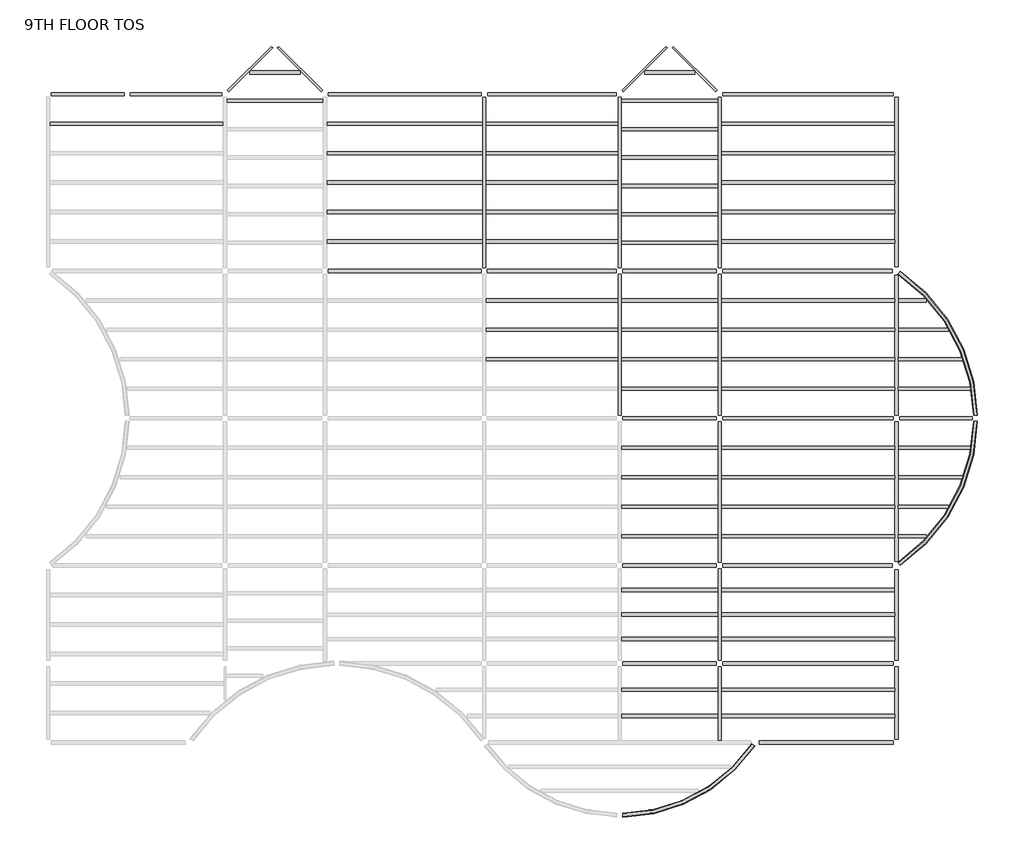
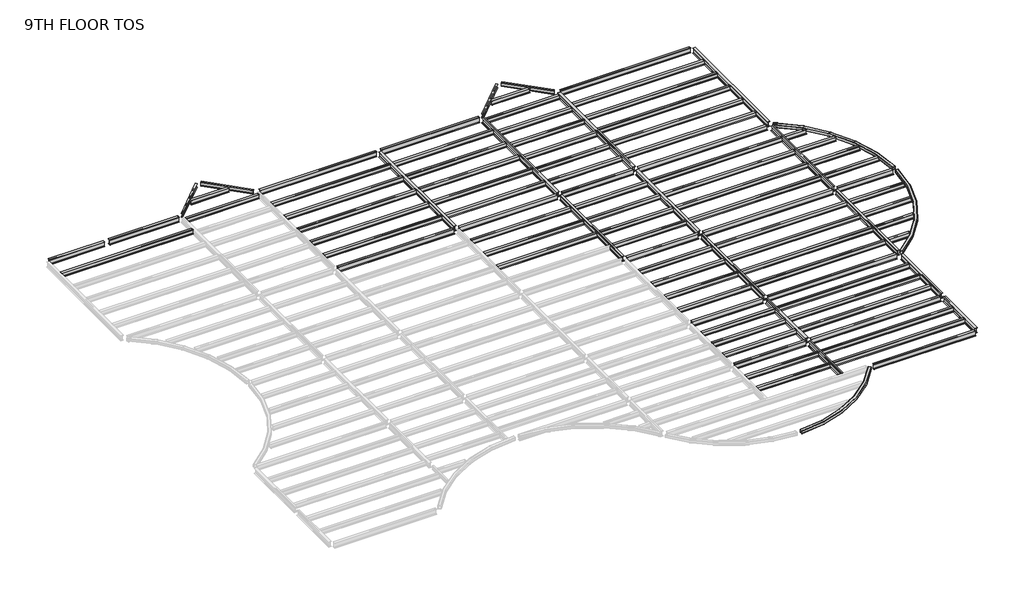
# One storey, part 2 of 2: 99 beams.
"""IFC4 building model written with IfcOpenShell, lengths in millimetres."""

from ifc_helpers import new_model, si_unit, origin, place, context, project, spatial, transform, mapped, element, save
from components import m_hss_square_hss203_2x203_2x9_5_28e91a4e, m_hss_square_hss203_2x203_2x9_5_f31329aa, m_hss_square_hss203_2x203_2x9_5_63507dff, ub_universal_beams_ub254x102x28_7812688d, ub_universal_beams_ub254x102x28_4a38c177, ub_universal_beams_ub305x165x40_c4d0385b, ub_universal_beams_ub305x165x40_19965e16, ub_universal_beams_ub305x165x40_d3abc31d, ub_universal_beams_ub305x165x40_0c73730f, ub_universal_beams_ub305x165x40_2a963f0c, ub_universal_beams_ub305x165x40_9ce7f2ee, ub_universal_beams_ub305x165x40_d184adfd, ub_universal_beams_ub305x165x40_bc7dc938, ub_universal_beams_ub305x165x40_b4233d25, ub_universal_beams_ub356x171x51_c708c058, ub_universal_beams_ub356x171x51_ef72dcdd, ub_universal_beams_ub356x171x51_10b3c54f, ub_universal_beams_ub356x171x51_4c9fd821, ub_universal_beams_ub356x171x51_d1a87c3c, ub_universal_beams_ub356x171x51_fa75724b, ub_universal_beams_ub356x171x51_68db896e, ub_universal_beams_ub356x171x51_c634c4a6, ub_universal_beams_ub356x171x51_995f1560, ub_universal_beams_ub356x171x51_dfc36663, ub_universal_beams_ub356x171x51_11d6b780, ub_universal_beams_ub356x171x51_76b2d20b, ub_universal_beams_ub356x171x51_145ecd4b, ub_universal_beams_ub356x171x51_c7dff8d2, ub_universal_beams_ub356x171x51_8a345439, ub_universal_beams_ub356x171x51_6da510e9, ub_universal_beams_ub356x171x51_e97f8d2e, ub_universal_beams_ub356x171x51_a38b99de, ub_universal_beams_ub356x171x51_d8f4cdde, ub_universal_beams_ub356x171x51_475301e6, ub_universal_beams_ub356x171x51_c03c70fb, ub_universal_beams_ub356x171x51_741bae58

model = new_model("IFC4")

# Units and contexts
model_context = context("Model", 3, world=origin())
ifc_project = project(units=[si_unit("LENGTHUNIT", "METRE", prefix="MILLI")], contexts=[model_context])

# Site, building, storey
site = spatial("IfcSite", under=ifc_project)
building = spatial("IfcBuilding", under=site)
storey = spatial("IfcBuildingStorey", under=building, Name="9TH FLOOR TOS", Elevation=40995.6)

# Beams
placement = place(None, origin())
m_hss_square_hss203_2x203_2x9_5_shape = m_hss_square_hss203_2x203_2x9_5_28e91a4e(model_context)
element("IfcBeam", 1, ObjectType="M_HSS Square : HSS203.2X203.2X9.5", at=placement, inside=storey, context=model_context, shape_type="MappedRepresentation", body=[
    mapped(m_hss_square_hss203_2x203_2x9_5_shape, transform((44027.575, 24539.575, 40894.1), x_axis=(0.8332810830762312, -0.5528495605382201, 0.0), y_axis=(0.5528495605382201, 0.8332810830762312, 0.0), z_axis=(0.0, 0.0, 1.0))),
])
m_hss_square_hss203_2x203_2x9_5_2_shape = m_hss_square_hss203_2x203_2x9_5_f31329aa(model_context)
element("IfcBeam", 2, ObjectType="M_HSS Square : HSS203.2X203.2X9.5", at=placement, inside=storey, context=model_context, shape_type="MappedRepresentation", body=[
    mapped(m_hss_square_hss203_2x203_2x9_5_2_shape, transform((44027.575, 9299.575, 40894.1), x_axis=(0.8332810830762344, 0.5528495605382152, 0.0), y_axis=(-0.5528495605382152, 0.8332810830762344, 0.0), z_axis=(0.0, 0.0, 1.0))),
])
m_hss_square_hss203_2x203_2x9_5_3_shape = m_hss_square_hss203_2x203_2x9_5_63507dff(model_context)
element("IfcBeam", 3, ObjectType="M_HSS Square : HSS203.2X203.2X9.5", at=placement, inside=storey, context=model_context, shape_type="MappedRepresentation", body=[
    mapped(m_hss_square_hss203_2x203_2x9_5_3_shape, transform((36716.575, 155.575, 40894.1), x_axis=(-0.5530174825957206, -0.8331696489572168, 0.0), y_axis=(0.8331696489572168, -0.5530174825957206, 0.0), z_axis=(0.0, 0.0, 1.0))),
])
ub_universal_beams_ub254x102x28_shape = ub_universal_beams_ub254x102x28_7812688d(model_context)
element("IfcBeam", 4, ObjectType="UB-Universal Beams : UB254x102x28", at=placement, inside=storey, context=model_context, shape_type="MappedRepresentation", body=[
    mapped(ub_universal_beams_ub254x102x28_shape, transform((10592.575, 34976.575, 40865.4), x_axis=(0.7071067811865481, 0.7071067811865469, 0.0), y_axis=(-0.7071067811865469, 0.7071067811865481, 0.0), z_axis=(0.0, 0.0, 1.0))),
])
element("IfcBeam", 5, ObjectType="UB-Universal Beams : UB254x102x28", at=placement, inside=storey, context=model_context, shape_type="MappedRepresentation", body=[
    mapped(ub_universal_beams_ub254x102x28_shape, transform((31004.575, 34976.575, 40865.4), x_axis=(0.7071067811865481, 0.7071067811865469, 0.0), y_axis=(-0.7071067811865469, 0.7071067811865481, 0.0), z_axis=(0.0, 0.0, 1.0))),
])
ub_universal_beams_ub254x102x28_2_shape = ub_universal_beams_ub254x102x28_4a38c177(model_context)
element("IfcBeam", 6, ObjectType="UB-Universal Beams : UB254x102x28", at=placement, inside=storey, context=model_context, shape_type="MappedRepresentation", body=[
    mapped(ub_universal_beams_ub254x102x28_2_shape, transform((13178.575, 34976.575, 40865.4), x_axis=(0.707106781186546, -0.707106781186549, 0.0), y_axis=(0.707106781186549, 0.707106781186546, 0.0), z_axis=(0.0, 0.0, 1.0))),
])
element("IfcBeam", 7, ObjectType="UB-Universal Beams : UB254x102x28", at=placement, inside=storey, context=model_context, shape_type="MappedRepresentation", body=[
    mapped(ub_universal_beams_ub254x102x28_2_shape, transform((33590.575, 34976.575, 40865.4), x_axis=(0.7071067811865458, -0.7071067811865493, 0.0), y_axis=(0.7071067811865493, 0.7071067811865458, 0.0), z_axis=(0.0, 0.0, 1.0))),
])
ub_universal_beams_ub305x165x40_shape = ub_universal_beams_ub305x165x40_c4d0385b(model_context)
element("IfcBeam", 8, ObjectType="UB-Universal Beams : UB305x165x40", at=placement, inside=storey, context=model_context, shape_type="MappedRepresentation", body=[
    mapped(ub_universal_beams_ub305x165x40_shape, transform((4727.575, 32159.575, 40843.9), x_axis=(1.0, 0.0, 0.0), y_axis=(0.0, 1.0, 0.0), z_axis=(0.0, 0.0, 1.0))),
])
element("IfcBeam", 9, ObjectType="UB-Universal Beams : UB305x165x40", at=placement, inside=storey, context=model_context, shape_type="MappedRepresentation", body=[
    mapped(ub_universal_beams_ub305x165x40_shape, transform((39455.575, 32159.575, 40843.9), x_axis=(1.0, 0.0, 0.0), y_axis=(0.0, 1.0, 0.0), z_axis=(0.0, 0.0, 1.0))),
])
element("IfcBeam", 10, ObjectType="UB-Universal Beams : UB305x165x40", at=placement, inside=storey, context=model_context, shape_type="MappedRepresentation", body=[
    mapped(ub_universal_beams_ub305x165x40_shape, transform((39455.575, 30635.575, 40843.9), x_axis=(1.0, 0.0, 0.0), y_axis=(0.0, 1.0, 0.0), z_axis=(0.0, 0.0, 1.0))),
])
element("IfcBeam", 11, ObjectType="UB-Universal Beams : UB305x165x40", at=placement, inside=storey, context=model_context, shape_type="MappedRepresentation", body=[
    mapped(ub_universal_beams_ub305x165x40_shape, transform((39455.575, 29111.575, 40843.9), x_axis=(1.0, 0.0, 0.0), y_axis=(0.0, 1.0, 0.0), z_axis=(0.0, 0.0, 1.0))),
])
element("IfcBeam", 12, ObjectType="UB-Universal Beams : UB305x165x40", at=placement, inside=storey, context=model_context, shape_type="MappedRepresentation", body=[
    mapped(ub_universal_beams_ub305x165x40_shape, transform((39455.575, 27587.575, 40843.9), x_axis=(1.0, 0.0, 0.0), y_axis=(0.0, 1.0, 0.0), z_axis=(0.0, 0.0, 1.0))),
])
element("IfcBeam", 13, ObjectType="UB-Universal Beams : UB305x165x40", at=placement, inside=storey, context=model_context, shape_type="MappedRepresentation", body=[
    mapped(ub_universal_beams_ub305x165x40_shape, transform((39455.575, 26063.575, 40843.9), x_axis=(1.0, 0.0, 0.0), y_axis=(0.0, 1.0, 0.0), z_axis=(0.0, 0.0, 1.0))),
])
element("IfcBeam", 14, ObjectType="UB-Universal Beams : UB305x165x40", at=placement, inside=storey, context=model_context, shape_type="MappedRepresentation", body=[
    mapped(ub_universal_beams_ub305x165x40_shape, transform((39455.575, 23015.575, 40843.9), x_axis=(1.0, 0.0, 0.0), y_axis=(0.0, 1.0, 0.0), z_axis=(0.0, 0.0, 1.0))),
])
element("IfcBeam", 15, ObjectType="UB-Universal Beams : UB305x165x40", at=placement, inside=storey, context=model_context, shape_type="MappedRepresentation", body=[
    mapped(ub_universal_beams_ub305x165x40_shape, transform((39455.575, 21491.575, 40843.9), x_axis=(1.0, 0.0, 0.0), y_axis=(0.0, 1.0, 0.0), z_axis=(0.0, 0.0, 1.0))),
])
element("IfcBeam", 16, ObjectType="UB-Universal Beams : UB305x165x40", at=placement, inside=storey, context=model_context, shape_type="MappedRepresentation", body=[
    mapped(ub_universal_beams_ub305x165x40_shape, transform((39455.575, 19967.575, 40843.9), x_axis=(1.0, 0.0, 0.0), y_axis=(0.0, 1.0, 0.0), z_axis=(0.0, 0.0, 1.0))),
])
element("IfcBeam", 17, ObjectType="UB-Universal Beams : UB305x165x40", at=placement, inside=storey, context=model_context, shape_type="MappedRepresentation", body=[
    mapped(ub_universal_beams_ub305x165x40_shape, transform((39455.575, 18443.575, 40843.9), x_axis=(1.0, 0.0, 0.0), y_axis=(0.0, 1.0, 0.0), z_axis=(0.0, 0.0, 1.0))),
])
element("IfcBeam", 18, ObjectType="UB-Universal Beams : UB305x165x40", at=placement, inside=storey, context=model_context, shape_type="MappedRepresentation", body=[
    mapped(ub_universal_beams_ub305x165x40_shape, transform((39455.575, 15395.575, 40843.9), x_axis=(1.0, 0.0, 0.0), y_axis=(0.0, 1.0, 0.0), z_axis=(0.0, 0.0, 1.0))),
])
element("IfcBeam", 19, ObjectType="UB-Universal Beams : UB305x165x40", at=placement, inside=storey, context=model_context, shape_type="MappedRepresentation", body=[
    mapped(ub_universal_beams_ub305x165x40_shape, transform((39455.575, 13871.575, 40843.9), x_axis=(1.0, 0.0, 0.0), y_axis=(0.0, 1.0, 0.0), z_axis=(0.0, 0.0, 1.0))),
])
element("IfcBeam", 20, ObjectType="UB-Universal Beams : UB305x165x40", at=placement, inside=storey, context=model_context, shape_type="MappedRepresentation", body=[
    mapped(ub_universal_beams_ub305x165x40_shape, transform((39455.575, 12347.575, 40843.9), x_axis=(1.0, 0.0, 0.0), y_axis=(0.0, 1.0, 0.0), z_axis=(0.0, 0.0, 1.0))),
])
element("IfcBeam", 21, ObjectType="UB-Universal Beams : UB305x165x40", at=placement, inside=storey, context=model_context, shape_type="MappedRepresentation", body=[
    mapped(ub_universal_beams_ub305x165x40_shape, transform((39455.575, 10823.575, 40843.9), x_axis=(1.0, 0.0, 0.0), y_axis=(0.0, 1.0, 0.0), z_axis=(0.0, 0.0, 1.0))),
])
element("IfcBeam", 22, ObjectType="UB-Universal Beams : UB305x165x40", at=placement, inside=storey, context=model_context, shape_type="MappedRepresentation", body=[
    mapped(ub_universal_beams_ub305x165x40_shape, transform((39455.575, 5508.325, 40843.9), x_axis=(-1.0, 0.0, 0.0), y_axis=(0.0, -1.0, 0.0), z_axis=(0.0, 0.0, 1.0))),
])
element("IfcBeam", 23, ObjectType="UB-Universal Beams : UB305x165x40", at=placement, inside=storey, context=model_context, shape_type="MappedRepresentation", body=[
    mapped(ub_universal_beams_ub305x165x40_shape, transform((39455.575, 6772.075, 40843.9), x_axis=(-1.0, 0.0, 0.0), y_axis=(0.0, -1.0, 0.0), z_axis=(0.0, 0.0, 1.0))),
])
element("IfcBeam", 24, ObjectType="UB-Universal Beams : UB305x165x40", at=placement, inside=storey, context=model_context, shape_type="MappedRepresentation", body=[
    mapped(ub_universal_beams_ub305x165x40_shape, transform((39455.575, 8035.825, 40843.9), x_axis=(-1.0, 0.0, 0.0), y_axis=(0.0, -1.0, 0.0), z_axis=(0.0, 0.0, 1.0))),
])
element("IfcBeam", 25, ObjectType="UB-Universal Beams : UB305x165x40", at=placement, inside=storey, context=model_context, shape_type="MappedRepresentation", body=[
    mapped(ub_universal_beams_ub305x165x40_shape, transform((39455.575, 1518.575, 40843.9), x_axis=(-1.0, 0.0, 0.0), y_axis=(0.0, -1.0, 0.0), z_axis=(0.0, 0.0, 1.0))),
])
element("IfcBeam", 26, ObjectType="UB-Universal Beams : UB305x165x40", at=placement, inside=storey, context=model_context, shape_type="MappedRepresentation", body=[
    mapped(ub_universal_beams_ub305x165x40_shape, transform((39455.575, 2881.575, 40843.9), x_axis=(-1.0, 0.0, 0.0), y_axis=(0.0, -1.0, 0.0), z_axis=(0.0, 0.0, 1.0))),
])
ub_universal_beams_ub305x165x40_2_shape = ub_universal_beams_ub305x165x40_19965e16(model_context)
element("IfcBeam", 27, ObjectType="UB-Universal Beams : UB305x165x40", at=placement, inside=storey, context=model_context, shape_type="MappedRepresentation", body=[
    mapped(ub_universal_beams_ub305x165x40_2_shape, transform((11885.575, 34803.325, 40843.9), x_axis=(1.0, 0.0, 0.0), y_axis=(0.0, 1.0, 0.0), z_axis=(0.0, 0.0, 1.0))),
])
element("IfcBeam", 28, ObjectType="UB-Universal Beams : UB305x165x40", at=placement, inside=storey, context=model_context, shape_type="MappedRepresentation", body=[
    mapped(ub_universal_beams_ub305x165x40_2_shape, transform((32297.575, 34803.325, 40843.9), x_axis=(1.0, 0.0, 0.0), y_axis=(0.0, 1.0, 0.0), z_axis=(0.0, 0.0, 1.0))),
])
ub_universal_beams_ub305x165x40_3_shape = ub_universal_beams_ub305x165x40_d3abc31d(model_context)
element("IfcBeam", 29, ObjectType="UB-Universal Beams : UB305x165x40", at=placement, inside=storey, context=model_context, shape_type="MappedRepresentation", body=[
    mapped(ub_universal_beams_ub305x165x40_3_shape, transform((11885.575, 33337.075, 40843.9), x_axis=(1.0, 0.0, 0.0), y_axis=(0.0, 1.0, 0.0), z_axis=(0.0, 0.0, 1.0))),
])
element("IfcBeam", 30, ObjectType="UB-Universal Beams : UB305x165x40", at=placement, inside=storey, context=model_context, shape_type="MappedRepresentation", body=[
    mapped(ub_universal_beams_ub305x165x40_3_shape, transform((32297.575, 33337.075, 40843.9), x_axis=(1.0, 0.0, 0.0), y_axis=(0.0, 1.0, 0.0), z_axis=(0.0, 0.0, 1.0))),
])
element("IfcBeam", 31, ObjectType="UB-Universal Beams : UB305x165x40", at=placement, inside=storey, context=model_context, shape_type="MappedRepresentation", body=[
    mapped(ub_universal_beams_ub305x165x40_3_shape, transform((32297.575, 31870.825, 40843.9), x_axis=(1.0, 0.0, 0.0), y_axis=(0.0, 1.0, 0.0), z_axis=(0.0, 0.0, 1.0))),
])
element("IfcBeam", 32, ObjectType="UB-Universal Beams : UB305x165x40", at=placement, inside=storey, context=model_context, shape_type="MappedRepresentation", body=[
    mapped(ub_universal_beams_ub305x165x40_3_shape, transform((32297.575, 30404.575, 40843.9), x_axis=(1.0, 0.0, 0.0), y_axis=(0.0, 1.0, 0.0), z_axis=(0.0, 0.0, 1.0))),
])
element("IfcBeam", 33, ObjectType="UB-Universal Beams : UB305x165x40", at=placement, inside=storey, context=model_context, shape_type="MappedRepresentation", body=[
    mapped(ub_universal_beams_ub305x165x40_3_shape, transform((32297.575, 28938.325, 40843.9), x_axis=(1.0, 0.0, 0.0), y_axis=(0.0, 1.0, 0.0), z_axis=(0.0, 0.0, 1.0))),
])
element("IfcBeam", 34, ObjectType="UB-Universal Beams : UB305x165x40", at=placement, inside=storey, context=model_context, shape_type="MappedRepresentation", body=[
    mapped(ub_universal_beams_ub305x165x40_3_shape, transform((32297.575, 27472.075, 40843.9), x_axis=(1.0, 0.0, 0.0), y_axis=(0.0, 1.0, 0.0), z_axis=(0.0, 0.0, 1.0))),
])
element("IfcBeam", 35, ObjectType="UB-Universal Beams : UB305x165x40", at=placement, inside=storey, context=model_context, shape_type="MappedRepresentation", body=[
    mapped(ub_universal_beams_ub305x165x40_3_shape, transform((32297.575, 26005.825, 40843.9), x_axis=(1.0, 0.0, 0.0), y_axis=(0.0, 1.0, 0.0), z_axis=(0.0, 0.0, 1.0))),
])
element("IfcBeam", 36, ObjectType="UB-Universal Beams : UB305x165x40", at=placement, inside=storey, context=model_context, shape_type="MappedRepresentation", body=[
    mapped(ub_universal_beams_ub305x165x40_3_shape, transform((32297.575, 1518.575, 40843.9), x_axis=(-1.0, 0.0, 0.0), y_axis=(0.0, -1.0, 0.0), z_axis=(0.0, 0.0, 1.0))),
])
element("IfcBeam", 37, ObjectType="UB-Universal Beams : UB305x165x40", at=placement, inside=storey, context=model_context, shape_type="MappedRepresentation", body=[
    mapped(ub_universal_beams_ub305x165x40_3_shape, transform((32297.575, 2881.575, 40843.9), x_axis=(-1.0, 0.0, 0.0), y_axis=(0.0, -1.0, 0.0), z_axis=(0.0, 0.0, 1.0))),
])
element("IfcBeam", 38, ObjectType="UB-Universal Beams : UB305x165x40", at=placement, inside=storey, context=model_context, shape_type="MappedRepresentation", body=[
    mapped(ub_universal_beams_ub305x165x40_3_shape, transform((32297.575, 5508.325, 40843.9), x_axis=(-1.0, 0.0, 0.0), y_axis=(0.0, -1.0, 0.0), z_axis=(0.0, 0.0, 1.0))),
])
element("IfcBeam", 39, ObjectType="UB-Universal Beams : UB305x165x40", at=placement, inside=storey, context=model_context, shape_type="MappedRepresentation", body=[
    mapped(ub_universal_beams_ub305x165x40_3_shape, transform((32297.575, 6772.075, 40843.9), x_axis=(-1.0, 0.0, 0.0), y_axis=(0.0, -1.0, 0.0), z_axis=(0.0, 0.0, 1.0))),
])
element("IfcBeam", 40, ObjectType="UB-Universal Beams : UB305x165x40", at=placement, inside=storey, context=model_context, shape_type="MappedRepresentation", body=[
    mapped(ub_universal_beams_ub305x165x40_3_shape, transform((32297.575, 8035.825, 40843.9), x_axis=(-1.0, 0.0, 0.0), y_axis=(0.0, -1.0, 0.0), z_axis=(0.0, 0.0, 1.0))),
])
element("IfcBeam", 41, ObjectType="UB-Universal Beams : UB305x165x40", at=placement, inside=storey, context=model_context, shape_type="MappedRepresentation", body=[
    mapped(ub_universal_beams_ub305x165x40_3_shape, transform((32297.575, 15395.575, 40843.9), x_axis=(1.0, 0.0, 0.0), y_axis=(0.0, 1.0, 0.0), z_axis=(0.0, 0.0, 1.0))),
])
element("IfcBeam", 42, ObjectType="UB-Universal Beams : UB305x165x40", at=placement, inside=storey, context=model_context, shape_type="MappedRepresentation", body=[
    mapped(ub_universal_beams_ub305x165x40_3_shape, transform((32297.575, 13871.575, 40843.9), x_axis=(1.0, 0.0, 0.0), y_axis=(0.0, 1.0, 0.0), z_axis=(0.0, 0.0, 1.0))),
])
element("IfcBeam", 43, ObjectType="UB-Universal Beams : UB305x165x40", at=placement, inside=storey, context=model_context, shape_type="MappedRepresentation", body=[
    mapped(ub_universal_beams_ub305x165x40_3_shape, transform((32297.575, 12347.575, 40843.9), x_axis=(1.0, 0.0, 0.0), y_axis=(0.0, 1.0, 0.0), z_axis=(0.0, 0.0, 1.0))),
])
element("IfcBeam", 44, ObjectType="UB-Universal Beams : UB305x165x40", at=placement, inside=storey, context=model_context, shape_type="MappedRepresentation", body=[
    mapped(ub_universal_beams_ub305x165x40_3_shape, transform((32297.575, 10823.575, 40843.9), x_axis=(1.0, 0.0, 0.0), y_axis=(0.0, 1.0, 0.0), z_axis=(0.0, 0.0, 1.0))),
])
element("IfcBeam", 45, ObjectType="UB-Universal Beams : UB305x165x40", at=placement, inside=storey, context=model_context, shape_type="MappedRepresentation", body=[
    mapped(ub_universal_beams_ub305x165x40_3_shape, transform((32297.575, 23015.575, 40843.9), x_axis=(1.0, 0.0, 0.0), y_axis=(0.0, 1.0, 0.0), z_axis=(0.0, 0.0, 1.0))),
])
element("IfcBeam", 46, ObjectType="UB-Universal Beams : UB305x165x40", at=placement, inside=storey, context=model_context, shape_type="MappedRepresentation", body=[
    mapped(ub_universal_beams_ub305x165x40_3_shape, transform((32297.575, 21491.575, 40843.9), x_axis=(1.0, 0.0, 0.0), y_axis=(0.0, 1.0, 0.0), z_axis=(0.0, 0.0, 1.0))),
])
element("IfcBeam", 47, ObjectType="UB-Universal Beams : UB305x165x40", at=placement, inside=storey, context=model_context, shape_type="MappedRepresentation", body=[
    mapped(ub_universal_beams_ub305x165x40_3_shape, transform((32297.575, 19967.575, 40843.9), x_axis=(1.0, 0.0, 0.0), y_axis=(0.0, 1.0, 0.0), z_axis=(0.0, 0.0, 1.0))),
])
element("IfcBeam", 48, ObjectType="UB-Universal Beams : UB305x165x40", at=placement, inside=storey, context=model_context, shape_type="MappedRepresentation", body=[
    mapped(ub_universal_beams_ub305x165x40_3_shape, transform((32297.575, 18443.575, 40843.9), x_axis=(1.0, 0.0, 0.0), y_axis=(0.0, 1.0, 0.0), z_axis=(0.0, 0.0, 1.0))),
])
ub_universal_beams_ub305x165x40_4_shape = ub_universal_beams_ub305x165x40_0c73730f(model_context)
element("IfcBeam", 49, ObjectType="UB-Universal Beams : UB305x165x40", at=placement, inside=storey, context=model_context, shape_type="MappedRepresentation", body=[
    mapped(ub_universal_beams_ub305x165x40_4_shape, transform((18591.075, 32159.575, 40843.9), x_axis=(1.0, 0.0, 0.0), y_axis=(0.0, 1.0, 0.0), z_axis=(0.0, 0.0, 1.0))),
])
element("IfcBeam", 50, ObjectType="UB-Universal Beams : UB305x165x40", at=placement, inside=storey, context=model_context, shape_type="MappedRepresentation", body=[
    mapped(ub_universal_beams_ub305x165x40_4_shape, transform((18591.075, 30635.575, 40843.9), x_axis=(1.0, 0.0, 0.0), y_axis=(0.0, 1.0, 0.0), z_axis=(0.0, 0.0, 1.0))),
])
element("IfcBeam", 51, ObjectType="UB-Universal Beams : UB305x165x40", at=placement, inside=storey, context=model_context, shape_type="MappedRepresentation", body=[
    mapped(ub_universal_beams_ub305x165x40_4_shape, transform((18591.075, 29111.575, 40843.9), x_axis=(1.0, 0.0, 0.0), y_axis=(0.0, 1.0, 0.0), z_axis=(0.0, 0.0, 1.0))),
])
element("IfcBeam", 52, ObjectType="UB-Universal Beams : UB305x165x40", at=placement, inside=storey, context=model_context, shape_type="MappedRepresentation", body=[
    mapped(ub_universal_beams_ub305x165x40_4_shape, transform((18591.075, 27587.575, 40843.9), x_axis=(1.0, 0.0, 0.0), y_axis=(0.0, 1.0, 0.0), z_axis=(0.0, 0.0, 1.0))),
])
element("IfcBeam", 53, ObjectType="UB-Universal Beams : UB305x165x40", at=placement, inside=storey, context=model_context, shape_type="MappedRepresentation", body=[
    mapped(ub_universal_beams_ub305x165x40_4_shape, transform((18591.075, 26063.575, 40843.9), x_axis=(1.0, 0.0, 0.0), y_axis=(0.0, 1.0, 0.0), z_axis=(0.0, 0.0, 1.0))),
])
ub_universal_beams_ub305x165x40_5_shape = ub_universal_beams_ub305x165x40_2a963f0c(model_context)
element("IfcBeam", 54, ObjectType="UB-Universal Beams : UB305x165x40", at=placement, inside=storey, context=model_context, shape_type="MappedRepresentation", body=[
    mapped(ub_universal_beams_ub305x165x40_5_shape, transform((26211.075, 32159.575, 40843.9), x_axis=(1.0, 0.0, 0.0), y_axis=(0.0, 1.0, 0.0), z_axis=(0.0, 0.0, 1.0))),
])
element("IfcBeam", 55, ObjectType="UB-Universal Beams : UB305x165x40", at=placement, inside=storey, context=model_context, shape_type="MappedRepresentation", body=[
    mapped(ub_universal_beams_ub305x165x40_5_shape, transform((26211.075, 30635.575, 40843.9), x_axis=(1.0, 0.0, 0.0), y_axis=(0.0, 1.0, 0.0), z_axis=(0.0, 0.0, 1.0))),
])
element("IfcBeam", 56, ObjectType="UB-Universal Beams : UB305x165x40", at=placement, inside=storey, context=model_context, shape_type="MappedRepresentation", body=[
    mapped(ub_universal_beams_ub305x165x40_5_shape, transform((26211.075, 29111.575, 40843.9), x_axis=(1.0, 0.0, 0.0), y_axis=(0.0, 1.0, 0.0), z_axis=(0.0, 0.0, 1.0))),
])
element("IfcBeam", 57, ObjectType="UB-Universal Beams : UB305x165x40", at=placement, inside=storey, context=model_context, shape_type="MappedRepresentation", body=[
    mapped(ub_universal_beams_ub305x165x40_5_shape, transform((26211.075, 27587.575, 40843.9), x_axis=(1.0, 0.0, 0.0), y_axis=(0.0, 1.0, 0.0), z_axis=(0.0, 0.0, 1.0))),
])
element("IfcBeam", 58, ObjectType="UB-Universal Beams : UB305x165x40", at=placement, inside=storey, context=model_context, shape_type="MappedRepresentation", body=[
    mapped(ub_universal_beams_ub305x165x40_5_shape, transform((26211.075, 26063.575, 40843.9), x_axis=(1.0, 0.0, 0.0), y_axis=(0.0, 1.0, 0.0), z_axis=(0.0, 0.0, 1.0))),
])
element("IfcBeam", 59, ObjectType="UB-Universal Beams : UB305x165x40", at=placement, inside=storey, context=model_context, shape_type="MappedRepresentation", body=[
    mapped(ub_universal_beams_ub305x165x40_5_shape, transform((26211.075, 23015.575, 40843.9), x_axis=(1.0, 0.0, 0.0), y_axis=(0.0, 1.0, 0.0), z_axis=(0.0, 0.0, 1.0))),
])
element("IfcBeam", 60, ObjectType="UB-Universal Beams : UB305x165x40", at=placement, inside=storey, context=model_context, shape_type="MappedRepresentation", body=[
    mapped(ub_universal_beams_ub305x165x40_5_shape, transform((26211.075, 21491.575, 40843.9), x_axis=(1.0, 0.0, 0.0), y_axis=(0.0, 1.0, 0.0), z_axis=(0.0, 0.0, 1.0))),
])
element("IfcBeam", 61, ObjectType="UB-Universal Beams : UB305x165x40", at=placement, inside=storey, context=model_context, shape_type="MappedRepresentation", body=[
    mapped(ub_universal_beams_ub305x165x40_5_shape, transform((26211.075, 19967.575, 40843.9), x_axis=(1.0, 0.0, 0.0), y_axis=(0.0, 1.0, 0.0), z_axis=(0.0, 0.0, 1.0))),
])
ub_universal_beams_ub305x165x40_6_shape = ub_universal_beams_ub305x165x40_9ce7f2ee(model_context)
element("IfcBeam", 62, ObjectType="UB-Universal Beams : UB305x165x40", at=placement, inside=storey, context=model_context, shape_type="MappedRepresentation", body=[
    mapped(ub_universal_beams_ub305x165x40_6_shape, transform((44907.9405309, 23015.575, 40843.9), x_axis=(1.0, 0.0, 0.0), y_axis=(0.0, 1.0, 0.0), z_axis=(0.0, 0.0, 1.0))),
])
element("IfcBeam", 63, ObjectType="UB-Universal Beams : UB305x165x40", at=placement, inside=storey, context=model_context, shape_type="MappedRepresentation", body=[
    mapped(ub_universal_beams_ub305x165x40_6_shape, transform((44907.9405309, 10823.575, 40843.9), x_axis=(1.0, 0.0, 0.0), y_axis=(0.0, 1.0, 0.0), z_axis=(0.0, 0.0, 1.0))),
])
ub_universal_beams_ub305x165x40_7_shape = ub_universal_beams_ub305x165x40_d184adfd(model_context)
element("IfcBeam", 64, ObjectType="UB-Universal Beams : UB305x165x40", at=placement, inside=storey, context=model_context, shape_type="MappedRepresentation", body=[
    mapped(ub_universal_beams_ub305x165x40_7_shape, transform((45459.5874928, 21491.575, 40843.9), x_axis=(1.0, 0.0, 0.0), y_axis=(0.0, 1.0, 0.0), z_axis=(0.0, 0.0, 1.0))),
])
element("IfcBeam", 65, ObjectType="UB-Universal Beams : UB305x165x40", at=placement, inside=storey, context=model_context, shape_type="MappedRepresentation", body=[
    mapped(ub_universal_beams_ub305x165x40_7_shape, transform((45459.5874928, 12347.575, 40843.9), x_axis=(1.0, 0.0, 0.0), y_axis=(0.0, 1.0, 0.0), z_axis=(0.0, 0.0, 1.0))),
])
ub_universal_beams_ub305x165x40_8_shape = ub_universal_beams_ub305x165x40_bc7dc938(model_context)
element("IfcBeam", 66, ObjectType="UB-Universal Beams : UB305x165x40", at=placement, inside=storey, context=model_context, shape_type="MappedRepresentation", body=[
    mapped(ub_universal_beams_ub305x165x40_8_shape, transform((45810.6153272, 19967.575, 40843.9), x_axis=(1.0, 0.0, 0.0), y_axis=(0.0, 1.0, 0.0), z_axis=(0.0, 0.0, 1.0))),
])
element("IfcBeam", 67, ObjectType="UB-Universal Beams : UB305x165x40", at=placement, inside=storey, context=model_context, shape_type="MappedRepresentation", body=[
    mapped(ub_universal_beams_ub305x165x40_8_shape, transform((45810.6153272, 13871.575, 40843.9), x_axis=(1.0, 0.0, 0.0), y_axis=(0.0, 1.0, 0.0), z_axis=(0.0, 0.0, 1.0))),
])
ub_universal_beams_ub305x165x40_9_shape = ub_universal_beams_ub305x165x40_b4233d25(model_context)
element("IfcBeam", 68, ObjectType="UB-Universal Beams : UB305x165x40", at=placement, inside=storey, context=model_context, shape_type="MappedRepresentation", body=[
    mapped(ub_universal_beams_ub305x165x40_9_shape, transform((46008.1318611, 18443.575, 40843.9), x_axis=(1.0, 0.0, 0.0), y_axis=(0.0, 1.0, 0.0), z_axis=(0.0, 0.0, 1.0))),
])
element("IfcBeam", 69, ObjectType="UB-Universal Beams : UB305x165x40", at=placement, inside=storey, context=model_context, shape_type="MappedRepresentation", body=[
    mapped(ub_universal_beams_ub305x165x40_9_shape, transform((46008.1318611, 15395.575, 40843.9), x_axis=(1.0, 0.0, 0.0), y_axis=(0.0, 1.0, 0.0), z_axis=(0.0, 0.0, 1.0))),
])
ub_universal_beams_ub356x171x51_shape = ub_universal_beams_ub356x171x51_c708c058(model_context)
element("IfcBeam", 70, ObjectType="UB-Universal Beams : UB356x171x51", at=placement, inside=storey, context=model_context, shape_type="MappedRepresentation", body=[
    mapped(ub_universal_beams_ub356x171x51_shape, transform((2200.075, 33683.575, 40818.1), x_axis=(1.0, 0.0, 0.0), y_axis=(0.0, 1.0, 0.0), z_axis=(0.0, 0.0, 1.0))),
])
ub_universal_beams_ub356x171x51_2_shape = ub_universal_beams_ub356x171x51_ef72dcdd(model_context)
element("IfcBeam", 71, ObjectType="UB-Universal Beams : UB356x171x51", at=placement, inside=storey, context=model_context, shape_type="MappedRepresentation", body=[
    mapped(ub_universal_beams_ub356x171x51_2_shape, transform((6772.075, 33683.575, 40818.1), x_axis=(1.0, 0.0, 0.0), y_axis=(0.0, 1.0, 0.0), z_axis=(0.0, 0.0, 1.0))),
])
element("IfcBeam", 72, ObjectType="UB-Universal Beams : UB356x171x51", at=placement, inside=storey, context=model_context, shape_type="MappedRepresentation", body=[
    mapped(ub_universal_beams_ub356x171x51_2_shape, transform((34883.575, 6772.075, 40818.1), x_axis=(0.0, -1.0, 0.0), y_axis=(1.0, 0.0, 0.0), z_axis=(0.0, 0.0, 1.0))),
])
ub_universal_beams_ub356x171x51_3_shape = ub_universal_beams_ub356x171x51_10b3c54f(model_context)
element("IfcBeam", 73, ObjectType="UB-Universal Beams : UB356x171x51", at=placement, inside=storey, context=model_context, shape_type="MappedRepresentation", body=[
    mapped(ub_universal_beams_ub356x171x51_3_shape, transform((18591.075, 33683.575, 40818.1), x_axis=(1.0, 0.0, 0.0), y_axis=(0.0, 1.0, 0.0), z_axis=(0.0, 0.0, 1.0))),
])
ub_universal_beams_ub356x171x51_4_shape = ub_universal_beams_ub356x171x51_4c9fd821(model_context)
element("IfcBeam", 74, ObjectType="UB-Universal Beams : UB356x171x51", at=placement, inside=storey, context=model_context, shape_type="MappedRepresentation", body=[
    mapped(ub_universal_beams_ub356x171x51_4_shape, transform((26211.075, 33683.575, 40818.1), x_axis=(1.0, 0.0, 0.0), y_axis=(0.0, 1.0, 0.0), z_axis=(0.0, 0.0, 1.0))),
])
ub_universal_beams_ub356x171x51_5_shape = ub_universal_beams_ub356x171x51_d1a87c3c(model_context)
element("IfcBeam", 75, ObjectType="UB-Universal Beams : UB356x171x51", at=placement, inside=storey, context=model_context, shape_type="MappedRepresentation", body=[
    mapped(ub_universal_beams_ub356x171x51_5_shape, transform((39455.575, 33683.575, 40818.1), x_axis=(1.0, 0.0, 0.0), y_axis=(0.0, 1.0, 0.0), z_axis=(0.0, 0.0, 1.0))),
])
ub_universal_beams_ub356x171x51_6_shape = ub_universal_beams_ub356x171x51_fa75724b(model_context)
element("IfcBeam", 76, ObjectType="UB-Universal Beams : UB356x171x51", at=placement, inside=storey, context=model_context, shape_type="MappedRepresentation", body=[
    mapped(ub_universal_beams_ub356x171x51_6_shape, transform((44027.575, 29111.575, 40818.1), x_axis=(0.0, -1.0, 0.0), y_axis=(1.0, 0.0, 0.0), z_axis=(0.0, 0.0, 1.0))),
])
ub_universal_beams_ub356x171x51_7_shape = ub_universal_beams_ub356x171x51_68db896e(model_context)
element("IfcBeam", 77, ObjectType="UB-Universal Beams : UB356x171x51", at=placement, inside=storey, context=model_context, shape_type="MappedRepresentation", body=[
    mapped(ub_universal_beams_ub356x171x51_7_shape, transform((44027.575, 6772.075, 40818.1), x_axis=(0.0, -1.0, 0.0), y_axis=(1.0, 0.0, 0.0), z_axis=(0.0, 0.0, 1.0))),
])
ub_universal_beams_ub356x171x51_8_shape = ub_universal_beams_ub356x171x51_c634c4a6(model_context)
element("IfcBeam", 78, ObjectType="UB-Universal Beams : UB356x171x51", at=placement, inside=storey, context=model_context, shape_type="MappedRepresentation", body=[
    mapped(ub_universal_beams_ub356x171x51_8_shape, transform((44027.575, 2200.075, 40818.1), x_axis=(0.0, -1.0, 0.0), y_axis=(1.0, 0.0, 0.0), z_axis=(0.0, 0.0, 1.0))),
])
ub_universal_beams_ub356x171x51_9_shape = ub_universal_beams_ub356x171x51_995f1560(model_context)
element("IfcBeam", 79, ObjectType="UB-Universal Beams : UB356x171x51", at=placement, inside=storey, context=model_context, shape_type="MappedRepresentation", body=[
    mapped(ub_universal_beams_ub356x171x51_9_shape, transform((40372.075, 155.575, 40818.1), x_axis=(-1.0, 0.0, 0.0), y_axis=(0.0, -1.0, 0.0), z_axis=(0.0, 0.0, 1.0))),
])
ub_universal_beams_ub356x171x51_10_shape = ub_universal_beams_ub356x171x51_dfc36663(model_context)
element("IfcBeam", 80, ObjectType="UB-Universal Beams : UB356x171x51", at=placement, inside=storey, context=model_context, shape_type="MappedRepresentation", body=[
    mapped(ub_universal_beams_ub356x171x51_10_shape, transform((46072.075, 16919.575, 40818.1), x_axis=(1.0, 0.0, 0.0), y_axis=(0.0, 1.0, 0.0), z_axis=(0.0, 0.0, 1.0))),
])
ub_universal_beams_ub356x171x51_11_shape = ub_universal_beams_ub356x171x51_11d6b780(model_context)
element("IfcBeam", 81, ObjectType="UB-Universal Beams : UB356x171x51", at=placement, inside=storey, context=model_context, shape_type="MappedRepresentation", body=[
    mapped(ub_universal_beams_ub356x171x51_11_shape, transform((32297.575, 24539.575, 40818.1), x_axis=(1.0, 0.0, 0.0), y_axis=(0.0, 1.0, 0.0), z_axis=(0.0, 0.0, 1.0))),
])
element("IfcBeam", 82, ObjectType="UB-Universal Beams : UB356x171x51", at=placement, inside=storey, context=model_context, shape_type="MappedRepresentation", body=[
    mapped(ub_universal_beams_ub356x171x51_11_shape, transform((32297.575, 9299.575, 40818.1), x_axis=(-1.0, 0.0, 0.0), y_axis=(0.0, -1.0, 0.0), z_axis=(0.0, 0.0, 1.0))),
])
element("IfcBeam", 83, ObjectType="UB-Universal Beams : UB356x171x51", at=placement, inside=storey, context=model_context, shape_type="MappedRepresentation", body=[
    mapped(ub_universal_beams_ub356x171x51_11_shape, transform((32297.575, 16919.575, 40818.1), x_axis=(1.0, 0.0, 0.0), y_axis=(0.0, 1.0, 0.0), z_axis=(0.0, 0.0, 1.0))),
])
element("IfcBeam", 84, ObjectType="UB-Universal Beams : UB356x171x51", at=placement, inside=storey, context=model_context, shape_type="MappedRepresentation", body=[
    mapped(ub_universal_beams_ub356x171x51_11_shape, transform((32297.575, 4244.575, 40818.1), x_axis=(-1.0, 0.0, 0.0), y_axis=(0.0, -1.0, 0.0), z_axis=(0.0, 0.0, 1.0))),
])
ub_universal_beams_ub356x171x51_12_shape = ub_universal_beams_ub356x171x51_76b2d20b(model_context)
element("IfcBeam", 85, ObjectType="UB-Universal Beams : UB356x171x51", at=placement, inside=storey, context=model_context, shape_type="MappedRepresentation", body=[
    mapped(ub_universal_beams_ub356x171x51_12_shape, transform((18591.075, 24539.575, 40818.1), x_axis=(1.0, 0.0, 0.0), y_axis=(0.0, 1.0, 0.0), z_axis=(0.0, 0.0, 1.0))),
])
ub_universal_beams_ub356x171x51_13_shape = ub_universal_beams_ub356x171x51_145ecd4b(model_context)
element("IfcBeam", 86, ObjectType="UB-Universal Beams : UB356x171x51", at=placement, inside=storey, context=model_context, shape_type="MappedRepresentation", body=[
    mapped(ub_universal_beams_ub356x171x51_13_shape, transform((26211.075, 24539.575, 40818.1), x_axis=(1.0, 0.0, 0.0), y_axis=(0.0, 1.0, 0.0), z_axis=(0.0, 0.0, 1.0))),
])
ub_universal_beams_ub356x171x51_14_shape = ub_universal_beams_ub356x171x51_c7dff8d2(model_context)
element("IfcBeam", 87, ObjectType="UB-Universal Beams : UB356x171x51", at=placement, inside=storey, context=model_context, shape_type="MappedRepresentation", body=[
    mapped(ub_universal_beams_ub356x171x51_14_shape, transform((39455.575, 24539.575, 40818.1), x_axis=(1.0, 0.0, 0.0), y_axis=(0.0, 1.0, 0.0), z_axis=(0.0, 0.0, 1.0))),
])
ub_universal_beams_ub356x171x51_15_shape = ub_universal_beams_ub356x171x51_8a345439(model_context)
element("IfcBeam", 88, ObjectType="UB-Universal Beams : UB356x171x51", at=placement, inside=storey, context=model_context, shape_type="MappedRepresentation", body=[
    mapped(ub_universal_beams_ub356x171x51_15_shape, transform((44027.575, 20729.575, 40818.1), x_axis=(0.0, -1.0, 0.0), y_axis=(1.0, 0.0, 0.0), z_axis=(0.0, 0.0, 1.0))),
])
ub_universal_beams_ub356x171x51_16_shape = ub_universal_beams_ub356x171x51_6da510e9(model_context)
element("IfcBeam", 89, ObjectType="UB-Universal Beams : UB356x171x51", at=placement, inside=storey, context=model_context, shape_type="MappedRepresentation", body=[
    mapped(ub_universal_beams_ub356x171x51_16_shape, transform((44027.575, 13109.575, 40818.1), x_axis=(0.0, -1.0, 0.0), y_axis=(1.0, 0.0, 0.0), z_axis=(0.0, 0.0, 1.0))),
])
ub_universal_beams_ub356x171x51_17_shape = ub_universal_beams_ub356x171x51_e97f8d2e(model_context)
element("IfcBeam", 90, ObjectType="UB-Universal Beams : UB356x171x51", at=placement, inside=storey, context=model_context, shape_type="MappedRepresentation", body=[
    mapped(ub_universal_beams_ub356x171x51_17_shape, transform((39455.575, 9299.575, 40818.1), x_axis=(-1.0, 0.0, 0.0), y_axis=(0.0, -1.0, 0.0), z_axis=(0.0, 0.0, 1.0))),
])
ub_universal_beams_ub356x171x51_18_shape = ub_universal_beams_ub356x171x51_a38b99de(model_context)
element("IfcBeam", 91, ObjectType="UB-Universal Beams : UB356x171x51", at=placement, inside=storey, context=model_context, shape_type="MappedRepresentation", body=[
    mapped(ub_universal_beams_ub356x171x51_18_shape, transform((34883.575, 20729.575, 40818.1), x_axis=(0.0, -1.0, 0.0), y_axis=(1.0, 0.0, 0.0), z_axis=(0.0, 0.0, 1.0))),
])
element("IfcBeam", 92, ObjectType="UB-Universal Beams : UB356x171x51", at=placement, inside=storey, context=model_context, shape_type="MappedRepresentation", body=[
    mapped(ub_universal_beams_ub356x171x51_18_shape, transform((34883.575, 13109.575, 40818.1), x_axis=(0.0, -1.0, 0.0), y_axis=(1.0, 0.0, 0.0), z_axis=(0.0, 0.0, 1.0))),
])
element("IfcBeam", 93, ObjectType="UB-Universal Beams : UB356x171x51", at=placement, inside=storey, context=model_context, shape_type="MappedRepresentation", body=[
    mapped(ub_universal_beams_ub356x171x51_18_shape, transform((29711.575, 20729.575, 40818.1), x_axis=(0.0, 1.0, 0.0), y_axis=(-1.0, 0.0, 0.0), z_axis=(0.0, 0.0, 1.0))),
])
ub_universal_beams_ub356x171x51_19_shape = ub_universal_beams_ub356x171x51_d8f4cdde(model_context)
element("IfcBeam", 94, ObjectType="UB-Universal Beams : UB356x171x51", at=placement, inside=storey, context=model_context, shape_type="MappedRepresentation", body=[
    mapped(ub_universal_beams_ub356x171x51_19_shape, transform((29711.575, 29111.575, 40818.1), x_axis=(0.0, 1.0, 0.0), y_axis=(-1.0, 0.0, 0.0), z_axis=(0.0, 0.0, 1.0))),
])
ub_universal_beams_ub356x171x51_20_shape = ub_universal_beams_ub356x171x51_475301e6(model_context)
element("IfcBeam", 95, ObjectType="UB-Universal Beams : UB356x171x51", at=placement, inside=storey, context=model_context, shape_type="MappedRepresentation", body=[
    mapped(ub_universal_beams_ub356x171x51_20_shape, transform((39455.575, 16919.575, 40818.1), x_axis=(1.0, 0.0, 0.0), y_axis=(0.0, 1.0, 0.0), z_axis=(0.0, 0.0, 1.0))),
])
element("IfcBeam", 96, ObjectType="UB-Universal Beams : UB356x171x51", at=placement, inside=storey, context=model_context, shape_type="MappedRepresentation", body=[
    mapped(ub_universal_beams_ub356x171x51_20_shape, transform((39455.575, 4244.575, 40818.1), x_axis=(-1.0, 0.0, 0.0), y_axis=(0.0, -1.0, 0.0), z_axis=(0.0, 0.0, 1.0))),
])
ub_universal_beams_ub356x171x51_21_shape = ub_universal_beams_ub356x171x51_c03c70fb(model_context)
element("IfcBeam", 97, ObjectType="UB-Universal Beams : UB356x171x51", at=placement, inside=storey, context=model_context, shape_type="MappedRepresentation", body=[
    mapped(ub_universal_beams_ub356x171x51_21_shape, transform((34883.575, 29111.575, 40818.1), x_axis=(0.0, -1.0, 0.0), y_axis=(1.0, 0.0, 0.0), z_axis=(0.0, 0.0, 1.0))),
])
element("IfcBeam", 98, ObjectType="UB-Universal Beams : UB356x171x51", at=placement, inside=storey, context=model_context, shape_type="MappedRepresentation", body=[
    mapped(ub_universal_beams_ub356x171x51_21_shape, transform((22710.575, 29111.575, 40818.1), x_axis=(0.0, -1.0, 0.0), y_axis=(1.0, 0.0, 0.0), z_axis=(0.0, 0.0, 1.0))),
])
ub_universal_beams_ub356x171x51_22_shape = ub_universal_beams_ub356x171x51_741bae58(model_context)
element("IfcBeam", 99, ObjectType="UB-Universal Beams : UB356x171x51", at=placement, inside=storey, context=model_context, shape_type="MappedRepresentation", body=[
    mapped(ub_universal_beams_ub356x171x51_22_shape, transform((34883.575, 2200.075, 40818.1), x_axis=(0.0, -1.0, 0.0), y_axis=(1.0, 0.0, 0.0), z_axis=(0.0, 0.0, 1.0))),
])

save(model, "model.ifc")
